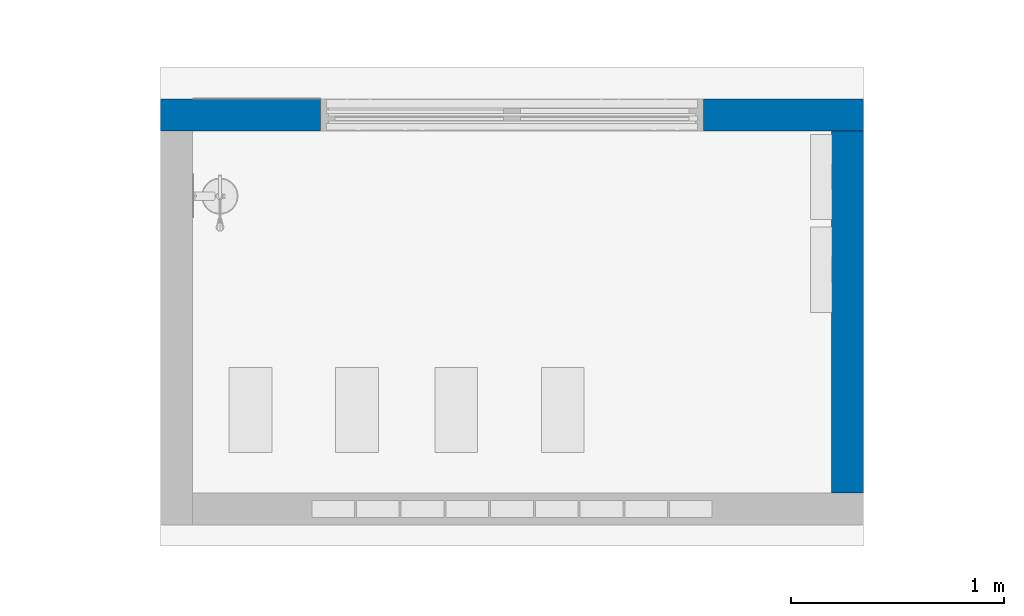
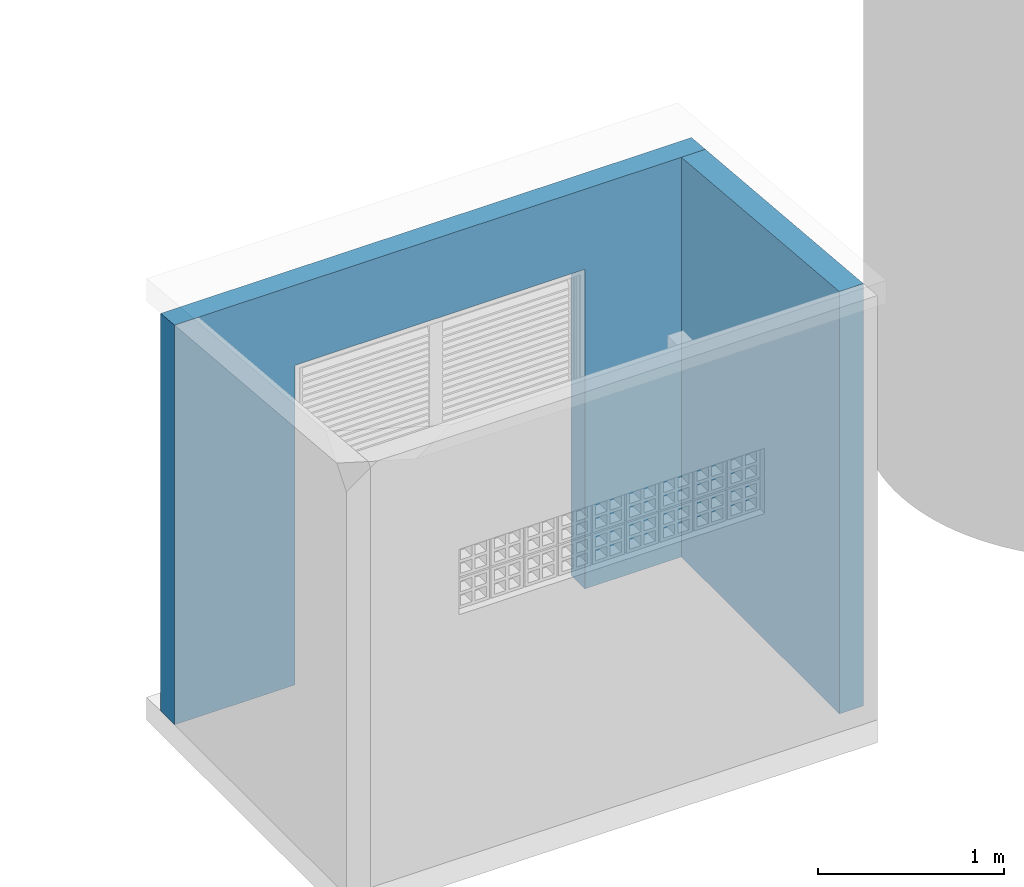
# One storey, part 3 of 119: 2 walls, 1 opening.
"""IFC2X3 building model written with IfcOpenShell, lengths in metres."""

from ifc_helpers import new_model, entity, si_unit, converted_unit, derived_unit, direction, frame, frame_2d, origin, place, context, subcontext, project, spatial, polyline, rectangle, extrude, clip, bounded_halfspace, material, layer, layer_set, layer_usage, type_object, element, save


model = new_model("IFC2X3")

# Units and contexts
model_context = context("Model", 3, precision=1e-05, world=origin(), true_north=direction((6.12303176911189e-17, 1.0)))
body_context = subcontext(model_context, "Body", "Model", "MODEL_VIEW")
ifc_project = project(units=[si_unit("LENGTHUNIT", "METRE"), si_unit("AREAUNIT", "SQUARE_METRE"), si_unit("VOLUMEUNIT", "CUBIC_METRE"), converted_unit("PLANEANGLEUNIT", "DEGREE", entity("IfcRatioMeasure", 0.0174532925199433), si_unit("PLANEANGLEUNIT", "RADIAN"), dimensions=[0, 0, 0, 0, 0, 0, 0]), si_unit("MASSUNIT", "GRAM", prefix="KILO"), derived_unit("MASSDENSITYUNIT", [(si_unit("MASSUNIT", "GRAM", prefix="KILO"), 1), (si_unit("LENGTHUNIT", "METRE"), -3)]), derived_unit("MOMENTOFINERTIAUNIT", [(si_unit("LENGTHUNIT", "METRE"), 4)]), si_unit("TIMEUNIT", "SECOND"), si_unit("FREQUENCYUNIT", "HERTZ"), si_unit("THERMODYNAMICTEMPERATUREUNIT", "DEGREE_CELSIUS"), derived_unit("THERMALTRANSMITTANCEUNIT", [(si_unit("MASSUNIT", "GRAM", prefix="KILO"), 1), (si_unit("THERMODYNAMICTEMPERATUREUNIT", "KELVIN"), -1), (si_unit("TIMEUNIT", "SECOND"), -3)]), derived_unit("VOLUMETRICFLOWRATEUNIT", [(si_unit("LENGTHUNIT", "METRE"), 3), (si_unit("TIMEUNIT", "SECOND"), -1)]), si_unit("ELECTRICCURRENTUNIT", "AMPERE"), si_unit("ELECTRICVOLTAGEUNIT", "VOLT"), si_unit("POWERUNIT", "WATT"), si_unit("FORCEUNIT", "NEWTON", prefix="KILO"), si_unit("ILLUMINANCEUNIT", "LUX"), si_unit("LUMINOUSFLUXUNIT", "LUMEN"), si_unit("LUMINOUSINTENSITYUNIT", "CANDELA"), derived_unit("USERDEFINED", [(si_unit("MASSUNIT", "GRAM", prefix="KILO"), -1), (si_unit("LENGTHUNIT", "METRE"), -2), (si_unit("TIMEUNIT", "SECOND"), 3), (si_unit("LUMINOUSFLUXUNIT", "LUMEN"), 1)]), derived_unit("LINEARVELOCITYUNIT", [(si_unit("LENGTHUNIT", "METRE"), 1), (si_unit("TIMEUNIT", "SECOND"), -1)]), si_unit("PRESSUREUNIT", "PASCAL"), derived_unit("USERDEFINED", [(si_unit("LENGTHUNIT", "METRE"), -2), (si_unit("MASSUNIT", "GRAM", prefix="KILO"), 1), (si_unit("TIMEUNIT", "SECOND"), -2)]), derived_unit("LINEARFORCEUNIT", [(si_unit("MASSUNIT", "GRAM", prefix="KILO"), 1), (si_unit("LENGTHUNIT", "METRE"), 1), (si_unit("TIMEUNIT", "SECOND"), -2), (si_unit("LENGTHUNIT", "METRE"), -1)]), derived_unit("PLANARFORCEUNIT", [(si_unit("MASSUNIT", "GRAM", prefix="KILO"), 1), (si_unit("LENGTHUNIT", "METRE"), 1), (si_unit("TIMEUNIT", "SECOND"), -2), (si_unit("LENGTHUNIT", "METRE"), -2)])], contexts=[model_context])

# Site, building, storey
site_placement = place(None, origin())
site = spatial("IfcSite", under=ifc_project, at=site_placement, Name="Default", CompositionType="ELEMENT")
building_placement = place(site_placement, origin())
building = spatial("IfcBuilding", under=site, at=building_placement, CompositionType="ELEMENT")
storey_placement = place(building_placement, origin())
storey = spatial("IfcBuildingStorey", under=building, at=storey_placement, Name="PAV. 01 - TÉRREO", CompositionType="ELEMENT", Elevation=0.0)

# Wall, opening
ifc_material_1 = material(Name="Alvenaria - Reboco")
ifc_layer_1 = layer(ifc_material_1, 0.025)
ifc_material_2 = material(Name="Alvenaria - Tijolo 8 furos")
ifc_layer_2 = layer(ifc_material_2, 0.1)
ifc_layer_3 = layer(ifc_material_1, 0.025)
ifc_layer_set = layer_set([ifc_layer_1, ifc_layer_2, ifc_layer_3], Name="Parede básica:Parede 15 - Externa")
ifc_layer_usage_1 = layer_usage(ifc_layer_set, "AXIS2", "NEGATIVE", 0.075)
wall_type = type_object("IfcWallType", Name="Parede básica:Parede 15 - Externa", PredefinedType="STANDARD", material=ifc_layer_set)
wall_1_placement = place(storey_placement, frame((90.748788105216, 33.7620741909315, 0.0), z_axis=(0.0, 0.0, 1.0), x_axis=(-1.0, 0.0, 0.0)))
wall_1 = element("IfcWallStandardCase", 1, at=wall_1_placement, inside=storey, type_object=wall_type, material=ifc_layer_usage_1, Name="Parede básica:Parede 15 - Externa", ObjectType="Parede básica:Parede 15 - Externa", context=body_context, shape_type="Clipping", body=[
    clip(extrude(rectangle(XDim=3.29999999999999, YDim=0.150000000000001, at=frame_2d((1.65, 8.67361737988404e-16), x_axis=(-1.0, 0.0))), origin(), (0.0, 0.0, 1.0), 2.62624659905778), bounded_halfspace(frame((0.0, -0.0750000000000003, 2.61312329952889), z_axis=(0.0, -0.0871557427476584, 0.996194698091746), x_axis=(1.0, 0.0, 0.0)), False, frame((0.0, -0.0750000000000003, 2.61312329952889)), polyline([(0.0, 0.0), (3.29999999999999, 0.0), (3.3, 0.150000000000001), (3.15, 0.150000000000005), (0.150000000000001, 0.150000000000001), (0.0, 0.150000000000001), (0.0, 0.0)]))),
])
opening_placement = place(wall_1_placement, frame((0.749999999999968, -0.0749999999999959, 0.0)))
element("IfcOpeningElement", 2, at=opening_placement, cuts=wall_1, Name="Correr - 1 folha - Veneziana:1.80x2.10:1", ObjectType="Opening", context=body_context, shape_type="SweptSolid", body=[
    extrude(rectangle(XDim=2.09999999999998, YDim=1.8, at=frame_2d((1.04999999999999, 0.899999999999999), x_axis=(1.0, 0.0))), frame((0.0, 0.0, 0.0), z_axis=(0.0, 1.0, 0.0), x_axis=(0.0, 0.0, 1.0)), (0.0, 0.0, 1.0), 0.15),
])

# Wall
ifc_layer_usage_2 = layer_usage(ifc_layer_set, "AXIS2", "NEGATIVE", 0.075)
wall_2_placement = place(storey_placement, frame((90.673788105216, 31.9870741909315, 0.0), z_axis=(0.0, 0.0, 1.0), x_axis=(0.0, 1.0, 0.0)))
element("IfcWallStandardCase", 3, at=wall_2_placement, inside=storey, type_object=wall_type, material=ifc_layer_usage_2, Name="Parede básica:Parede 15 - Externa", ObjectType="Parede básica:Parede 15 - Externa", context=body_context, shape_type="Clipping", body=[
    clip(extrude(rectangle(XDim=1.69999999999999, YDim=0.150000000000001, at=frame_2d((0.849999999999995, -4.01068067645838e-15), x_axis=(-1.0, 0.0))), origin(), (0.0, 0.0, 1.0), 2.77497732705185), bounded_halfspace(frame((0.0, -0.0749999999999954, 2.77497732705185), z_axis=(0.0871557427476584, 0.0, 0.996194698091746), x_axis=(0.0, 1.0, 0.0)), False, frame((0.0, -0.0749999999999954, 2.77497732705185)), polyline([(0.0, 0.0), (1.69999999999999, 0.0), (1.69999999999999, 0.149999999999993), (0.0, 0.150000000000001), (0.0, 0.0)]))),
])

save(model, "model.ifc")
